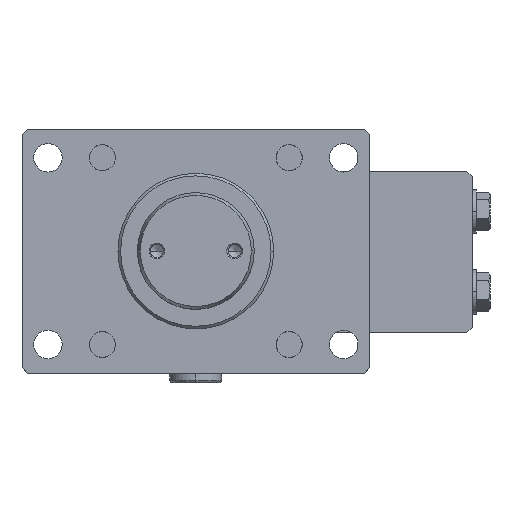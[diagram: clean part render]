
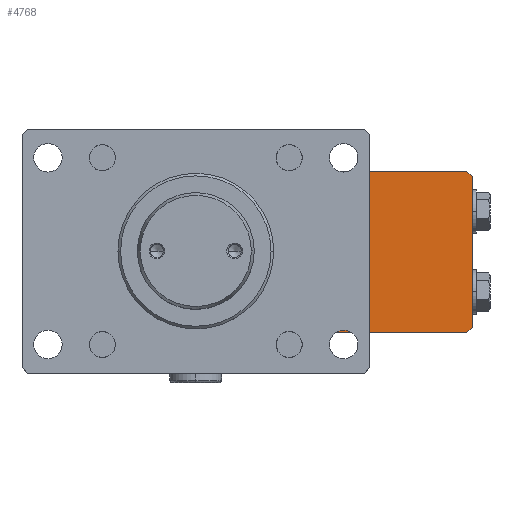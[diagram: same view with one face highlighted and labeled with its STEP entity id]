
A CAD part, top view. The second image highlights one B-rep face of the part: STEP entity #4768.
In plain terms, the highlighted planar face has unit normal (0, 0, 1).
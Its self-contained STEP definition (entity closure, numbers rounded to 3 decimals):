
#626 = CARTESIAN_POINT ( 'NONE',  ( 106.5, 29., -138.4 ) ) ;
#767 = DIRECTION ( 'NONE',  ( -1., 0., 0. ) ) ;
#774 = CARTESIAN_POINT ( 'NONE',  ( 46.5, 31., -138.4 ) ) ;
#960 = EDGE_CURVE ( 'NONE', #8949, #8642, #8427, .T. ) ;
#1289 = CARTESIAN_POINT ( 'NONE',  ( 104.5, 31., -138.4 ) ) ;
#1663 = CARTESIAN_POINT ( 'NONE',  ( 106.5, -31., -138.4 ) ) ;
#1702 = CARTESIAN_POINT ( 'NONE',  ( 106.5, -29., -138.4 ) ) ;
#1731 = EDGE_CURVE ( 'NONE', #8949, #8792, #3222, .T. ) ;
#1773 = VECTOR ( 'NONE', #767, 1000. ) ;
#2148 = CARTESIAN_POINT ( 'NONE',  ( 44.5, -29., -138.4 ) ) ;
#2303 = DIRECTION ( 'NONE',  ( -0.707, 0.707, 0. ) ) ;
#2512 = LINE ( 'NONE', #8727, #7128 ) ;
#2550 = VECTOR ( 'NONE', #2862, 1000. ) ;
#2584 = DIRECTION ( 'NONE',  ( 0.707, 0.707, 0. ) ) ;
#2862 = DIRECTION ( 'NONE',  ( 0.707, 0.707, 0. ) ) ;
#2940 = VERTEX_POINT ( 'NONE', #2148 ) ;
#3013 = EDGE_LOOP ( 'NONE', ( #6366, #4415, #8106, #10375, #8056, #5020, #4550, #3226 ) ) ;
#3027 = EDGE_CURVE ( 'NONE', #9573, #5757, #11242, .T. ) ;
#3192 = VECTOR ( 'NONE', #2584, 1000. ) ;
#3222 = LINE ( 'NONE', #8540, #7569 ) ;
#3226 = ORIENTED_EDGE ( 'NONE', *, *, #3027, .F. ) ;
#3445 = PLANE ( 'NONE',  #4323 ) ;
#3929 = DIRECTION ( 'NONE',  ( -1., 0., 0. ) ) ;
#4110 = CARTESIAN_POINT ( 'NONE',  ( 44.5, -31., -138.4 ) ) ;
#4255 = EDGE_CURVE ( 'NONE', #6433, #2940, #2512, .T. ) ;
#4323 = AXIS2_PLACEMENT_3D ( 'NONE', #9514, #10398, #5194 ) ;
#4415 = ORIENTED_EDGE ( 'NONE', *, *, #4255, .F. ) ;
#4550 = ORIENTED_EDGE ( 'NONE', *, *, #8822, .T. ) ;
#4641 = VECTOR ( 'NONE', #8458, 1000. ) ;
#4768 = ADVANCED_FACE ( 'NONE', ( #8046 ), #3445, .F. ) ;
#5020 = ORIENTED_EDGE ( 'NONE', *, *, #1731, .T. ) ;
#5047 = CARTESIAN_POINT ( 'NONE',  ( 104.5, -31., -138.4 ) ) ;
#5194 = DIRECTION ( 'NONE',  ( -1., 0., 0. ) ) ;
#5382 = CARTESIAN_POINT ( 'NONE',  ( 106.5, -29., -138.4 ) ) ;
#5655 = EDGE_CURVE ( 'NONE', #9573, #2940, #9523, .T. ) ;
#5757 = VERTEX_POINT ( 'NONE', #774 ) ;
#5821 = VECTOR ( 'NONE', #3929, 1000. ) ;
#6111 = CARTESIAN_POINT ( 'NONE',  ( 46.5, -31., -138.4 ) ) ;
#6306 = DIRECTION ( 'NONE',  ( 0., -1., 0. ) ) ;
#6366 = ORIENTED_EDGE ( 'NONE', *, *, #5655, .T. ) ;
#6433 = VERTEX_POINT ( 'NONE', #6111 ) ;
#6436 = CARTESIAN_POINT ( 'NONE',  ( 44.5, 29., -138.4 ) ) ;
#7128 = VECTOR ( 'NONE', #9527, 1000. ) ;
#7569 = VECTOR ( 'NONE', #2303, 1000. ) ;
#8046 = FACE_OUTER_BOUND ( 'NONE', #3013, .T. ) ;
#8056 = ORIENTED_EDGE ( 'NONE', *, *, #960, .F. ) ;
#8106 = ORIENTED_EDGE ( 'NONE', *, *, #8459, .F. ) ;
#8427 = LINE ( 'NONE', #8918, #10203 ) ;
#8458 = DIRECTION ( 'NONE',  ( 0., -1., 0. ) ) ;
#8459 = EDGE_CURVE ( 'NONE', #8983, #6433, #11013, .T. ) ;
#8540 = CARTESIAN_POINT ( 'NONE',  ( 106.5, 29., -138.4 ) ) ;
#8642 = VERTEX_POINT ( 'NONE', #5382 ) ;
#8727 = CARTESIAN_POINT ( 'NONE',  ( 44.5, -29., -138.4 ) ) ;
#8792 = VERTEX_POINT ( 'NONE', #1289 ) ;
#8822 = EDGE_CURVE ( 'NONE', #8792, #5757, #10457, .T. ) ;
#8918 = CARTESIAN_POINT ( 'NONE',  ( 106.5, -31., -138.4 ) ) ;
#8949 = VERTEX_POINT ( 'NONE', #626 ) ;
#8983 = VERTEX_POINT ( 'NONE', #5047 ) ;
#9514 = CARTESIAN_POINT ( 'NONE',  ( 106.5, -31., -138.4 ) ) ;
#9523 = LINE ( 'NONE', #4110, #4641 ) ;
#9527 = DIRECTION ( 'NONE',  ( -0.707, 0.707, 0. ) ) ;
#9573 = VERTEX_POINT ( 'NONE', #6436 ) ;
#9994 = CARTESIAN_POINT ( 'NONE',  ( 106.5, 31., -138.4 ) ) ;
#10130 = LINE ( 'NONE', #1702, #3192 ) ;
#10203 = VECTOR ( 'NONE', #6306, 1000. ) ;
#10375 = ORIENTED_EDGE ( 'NONE', *, *, #10966, .T. ) ;
#10398 = DIRECTION ( 'NONE',  ( 0., 0., -1. ) ) ;
#10457 = LINE ( 'NONE', #9994, #5821 ) ;
#10707 = CARTESIAN_POINT ( 'NONE',  ( 44.5, 29., -138.4 ) ) ;
#10966 = EDGE_CURVE ( 'NONE', #8983, #8642, #10130, .T. ) ;
#11013 = LINE ( 'NONE', #1663, #1773 ) ;
#11242 = LINE ( 'NONE', #10707, #2550 ) ;
